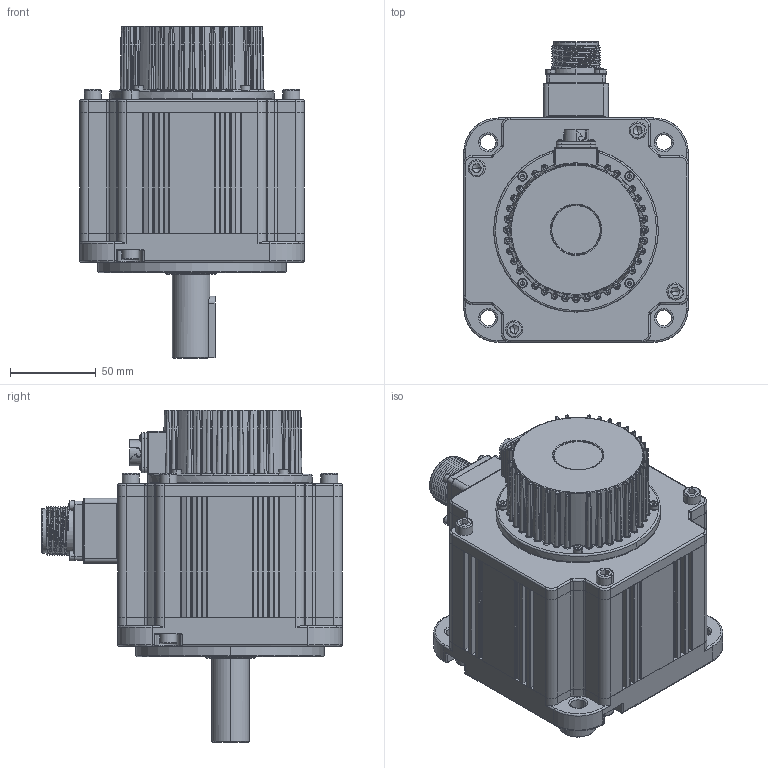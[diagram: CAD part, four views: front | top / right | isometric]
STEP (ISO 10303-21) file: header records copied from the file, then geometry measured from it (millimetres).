
FILE_DESCRIPTION (( 'STEP AP214' ), '1' );
FILE_NAME ('9120122239+V7E-M13A-R8515-D1C.STEP', '2021-07-06T05:38:54', ( '' ), ( '' ), 'SwSTEP 2.0', 'SolidWorks 2014', '' );
FILE_SCHEMA (( 'AUTOMOTIVE_DESIGN' ));
Length unit declared in the file: millimetre
Products named in the file (26): 9120122239+V7E-M13A-R8515-D1C; SC6204; 瑤諾脣芛 SC-CMV1-R10P; 囀鞠褒 M3X10; 坋趼攫芛 M2X8; SC_6204 Ball; 130陔ヶ傷裔200917; 130綴傷裔200917; 雄薯盄釱砎蝶菜200910; す菜 M3; SC瑤諾脣芛 CMS3102A18-10P-Z; 囀鞠褒 M6X20; V7-130#转子组件（不带刹车）; V7-130#定子组件（不带刹车）; 130陔ヶ傷裔200902; 儂褲200901; 囀鞠褒 M3X30; 雄薯瑤脣釱200909; SC晤鎢ん欶200908_9郋; 粣200907; 零件1^V7-130#电机组件（不带刹车）200927; O型圈-122.35; 粟菜 M3; 蚐猾 D00B999YF7-TC 30-42-7; 囀鞠褒 M3X8; 綴傷裔200903-4晚源倛
Assembly tree (51 placements, depth 4):
  9120122239+V7E-M13A-R8515-D1C
    V7-130#定子组件（不带刹车）
      儂褲200901
      O型圈-122.35
      雄薯盄釱砎蝶菜200910
      雄薯瑤脣釱200909
      SC瑤諾脣芛 CMS3102A18-10P-Z
      囀鞠褒 M3X30  x4
      囀鞠褒 M6X20  x4
      130陔ヶ傷裔200917
        130陔ヶ傷裔200902
    V7-130#转子组件（不带刹车）
      粣200907
      SC6204
        SC_6204 Ball  x9
      O型圈-122.35
    囀鞠褒 M3X8  x2
    粟菜 M3
    す菜 M3
    坋趼攫芛 M2X8  x4
    囀鞠褒 M6X20  x4
    SC晤鎢ん欶200908_9郋
    囀鞠褒 M3X10  x4
    蚐猾 D00B999YF7-TC 30-42-7
    130綴傷裔200917
      綴傷裔200903-4晚源倛
    零件1^V7-130#电机组件（不带刹车）200927
    瑤諾脣芛 SC-CMV1-R10P
Bounding box: 131 x 175.4 x 193.79 mm (x, y, z)
Volume: 756737.8 mm3; surface area: 284408.4 mm2
Topology: 47 solids, 47 shells, 3093 faces, 7480 edges, 4347 vertices
Faces by surface type: cylinder 1102, bspline 916, plane 761, cone 246, torus 36, sphere 32
Entity records: 141517 total; most frequent: CARTESIAN_POINT 57181, ORIENTED_EDGE 12404, DIRECTION 10733, EDGE_CURVE 6202, AXIS2_PLACEMENT_3D 4314, VERTEX_POINT 3686, EDGE_LOOP 2866, FACE_OUTER_BOUND 2651
